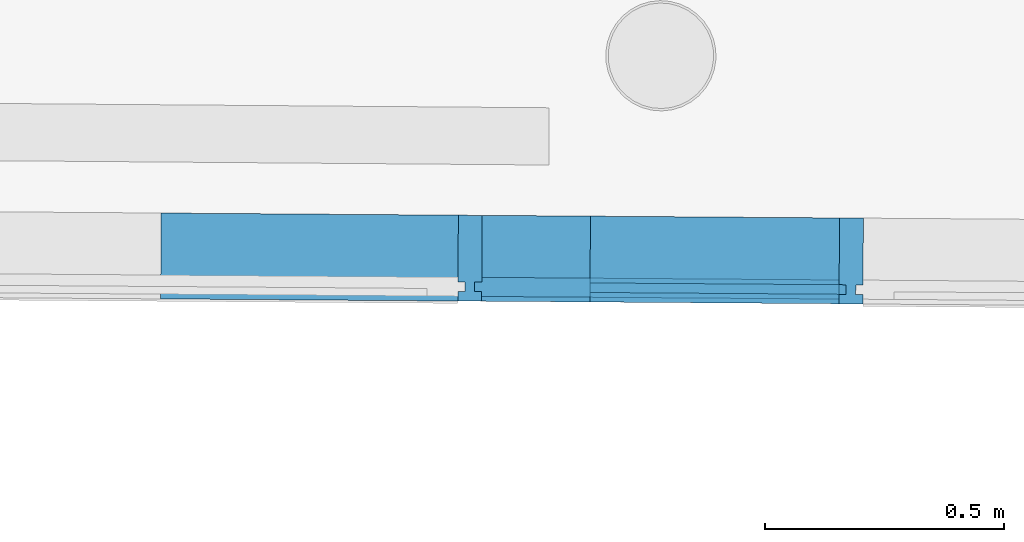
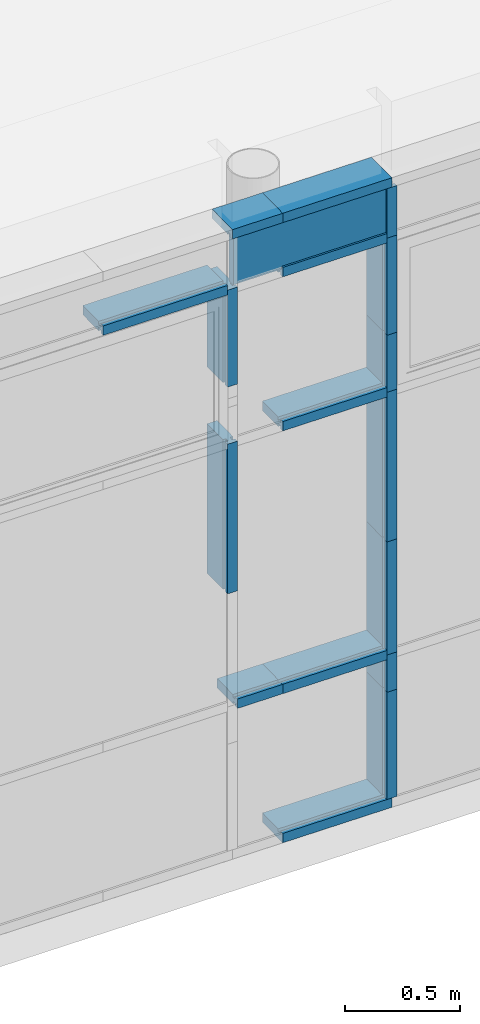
# One storey, part 172 of 196: 18 building element parts, 1 element without a shape of its own.
"""IFC2X3 building model written with IfcOpenShell, lengths in metres."""

from ifc_helpers import new_model, entity, si_unit, converted_unit, derived_unit, money_unit, direction, frame, origin_with_axes, place, context, subcontext, project, spatial, faceted_brep, material, type_object, element, aggregate, save


model = new_model("IFC2X3")

# Units and contexts
model_context = context("Model", 3, precision=1e-05, world=origin_with_axes(), true_north=direction((0.0, 1.0)))
body_context = subcontext(model_context, "Body", "Model", "MODEL_VIEW")
ifc_project = project(units=[si_unit("LENGTHUNIT", "METRE"), si_unit("AREAUNIT", "SQUARE_METRE"), si_unit("VOLUMEUNIT", "CUBIC_METRE"), converted_unit("PLANEANGLEUNIT", "DEGREE", entity("IfcPlaneAngleMeasure", 0.0174532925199), si_unit("PLANEANGLEUNIT", "RADIAN"), dimensions=[0, 0, 0, 0, 0, 0, 0]), money_unit("EUR"), converted_unit("TIMEUNIT", "Year", entity("IfcTimeMeasure", 31556926.0), si_unit("TIMEUNIT", "SECOND"), dimensions=[0, 0, 1, 0, 0, 0, 0]), si_unit("MASSUNIT", "GRAM", prefix="KILO"), si_unit("THERMODYNAMICTEMPERATUREUNIT", "DEGREE_CELSIUS"), si_unit("LUMINOUSINTENSITYUNIT", "LUMEN"), si_unit("ENERGYUNIT", "JOULE", prefix="MEGA"), derived_unit("THERMALCONDUCTANCEUNIT", [(si_unit("POWERUNIT", "WATT"), 1), (si_unit("LENGTHUNIT", "METRE"), -1), (si_unit("THERMODYNAMICTEMPERATUREUNIT", "KELVIN"), -1)]), derived_unit("SPECIFICHEATCAPACITYUNIT", [(si_unit("ENERGYUNIT", "JOULE"), 1), (si_unit("MASSUNIT", "GRAM", prefix="KILO"), -1), (si_unit("THERMODYNAMICTEMPERATUREUNIT", "KELVIN"), -1)]), derived_unit("MASSDENSITYUNIT", [(si_unit("MASSUNIT", "GRAM", prefix="KILO"), 1), (si_unit("VOLUMEUNIT", "CUBIC_METRE"), -1)])], contexts=[model_context])

# Site, building, storey
site_placement = place(None, origin_with_axes())
site = spatial("IfcSite", under=ifc_project, at=site_placement, Name="Gelände", CompositionType="ELEMENT")
building_placement = place(site_placement, origin_with_axes())
building = spatial("IfcBuilding", under=site, at=building_placement, Name="Gebäude", CompositionType="ELEMENT")
storey_placement = place(building_placement, frame((0.0, 0.0, -3.0), z_axis=(0.0, 0.0, 1.0), x_axis=(1.0, 0.0, 0.0)))
storey = spatial("IfcBuildingStorey", under=building, at=storey_placement, Name="KELLERGESCHOSS", CompositionType="ELEMENT", Elevation=-3.0)

# Proxy, building element parts
building_element_proxy_type = type_object("IfcBuildingElementProxyType", Name="Fassadentyp", PredefinedType="NOTDEFINED")
proxy_placement = place(storey_placement, frame((2.54090824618, 35.7894672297, 0.610000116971), z_axis=(0.0, 0.0, 1.0), x_axis=(1.0, 0.0, 0.0)))
proxy = element("IfcBuildingElementProxy", 1, at=proxy_placement, inside=storey, type_object=building_element_proxy_type, Name="Fassade-002")
ifc_material_1 = material(Name="45_Glas, Normalglas")
building_element_part_1_placement = place(proxy_placement, origin_with_axes())
building_element_part_1 = element("IfcBuildingElementPart", 2, at=building_element_part_1_placement, material=ifc_material_1, Name="45_Glas, Normalglas", context=body_context, shape_type="Brep", body=[
    faceted_brep([(0.426614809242, 0.0169092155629, 3.31499994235), (-0.110571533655, 0.020801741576, 3.31499994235), (-0.110861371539, -0.0191972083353, 3.31499994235), (0.426324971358, -0.0230897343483, 3.31499994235), (0.426614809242, 0.0169092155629, 3.04649575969), (-0.110571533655, 0.020801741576, 3.04649575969), (-0.352513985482, 0.0225548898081, 3.04649575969), (-0.352513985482, 0.0225548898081, 3.31499994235), (-0.352803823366, -0.0174440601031, 3.31499994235), (-0.352803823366, -0.0174440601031, 3.04649575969), (-0.110861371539, -0.0191972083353, 3.04649575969), (0.426324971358, -0.0230897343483, 3.04649575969)], [[[0, 1, 2, 3]], [[0, 4, 5, 6, 7, 1]], [[1, 7, 8, 2]], [[3, 2, 8, 9, 10, 11]], [[4, 0, 3, 11]], [[5, 4, 11, 10]], [[6, 5, 10, 9]], [[7, 6, 9, 8]]]),
])
ifc_material_2 = material(Name="53_Metall, Aluminium")
building_element_part_2_placement = place(proxy_placement, origin_with_axes())
building_element_part_2 = element("IfcBuildingElementPart", 3, at=building_element_part_2_placement, material=ifc_material_2, Name="53_Metall, Aluminium", context=body_context, shape_type="Brep", body=[
    faceted_brep([(0.446541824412, 0.00676455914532, 3.29999994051), (0.461541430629, 0.00665586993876, 3.29999994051), (0.462555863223, 0.146652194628, 3.29999994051), (0.412557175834, 0.147014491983, 3.29999994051), (0.41154274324, 0.00701816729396, 3.29999994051), (0.426542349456, 0.0069094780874, 3.29999994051), (0.426397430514, -0.0130899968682, 3.29999994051), (0.411397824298, -0.0129813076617, 3.29999994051), (0.411252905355, -0.0329807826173, 3.29999994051), (0.461251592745, -0.0333430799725, 3.29999994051), (0.461396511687, -0.0133436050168, 3.29999994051), (0.44639690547, -0.0132349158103, 3.29999994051), (0.446541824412, 0.00676455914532, 3.03649576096), (0.461541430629, 0.00665586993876, 3.03649576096), (0.462555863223, 0.146652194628, 3.03649576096), (0.412557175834, 0.147014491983, 3.03649576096), (0.41154274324, 0.00701816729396, 3.03649576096), (0.426542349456, 0.0069094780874, 3.03649576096), (0.426397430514, -0.0130899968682, 3.03649576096), (0.411397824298, -0.0129813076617, 3.03649576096), (0.411252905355, -0.0329807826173, 3.03649576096), (0.461251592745, -0.0333430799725, 3.03649576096), (0.461396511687, -0.0133436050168, 3.03649576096), (0.44639690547, -0.0132349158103, 3.03649576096)], [[[0, 1, 2, 3, 4, 5, 6, 7, 8, 9, 10, 11]], [[1, 0, 12, 13]], [[1, 13, 14, 2]], [[3, 2, 14, 15]], [[4, 3, 15, 16]], [[4, 16, 17, 5]], [[5, 17, 18, 6]], [[7, 6, 18, 19]], [[19, 20, 8, 7]], [[9, 8, 20, 21]], [[22, 10, 9, 21]], [[11, 10, 22, 23]], [[0, 11, 23, 12]], [[23, 22, 21, 20, 19, 18, 17, 16, 15, 14, 13, 12]]]),
])
building_element_part_3_placement = place(proxy_placement, origin_with_axes())
building_element_part_3 = element("IfcBuildingElementPart", 4, at=building_element_part_3_placement, material=ifc_material_2, Name="53_Metall, Aluminium", context=body_context, shape_type="Brep", body=[
    faceted_brep([(0.446541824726, 0.00676455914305, 2.51999988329), (0.461541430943, 0.00665586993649, 2.51999988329), (0.462555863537, 0.146652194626, 2.51999988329), (0.412557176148, 0.147014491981, 2.51999988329), (0.411542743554, 0.00701816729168, 2.51999988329), (0.426542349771, 0.00690947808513, 2.51999988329), (0.426397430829, -0.0130899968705, 2.51999988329), (0.411397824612, -0.0129813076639, 2.51999988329), (0.41125290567, -0.0329807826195, 2.51999988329), (0.461251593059, -0.0333430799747, 2.51999988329), (0.461396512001, -0.0133436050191, 2.51999988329), (0.446396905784, -0.0132349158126, 2.51999988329), (0.446541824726, 0.00676455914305, 2.21648768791), (0.461541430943, 0.00665586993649, 2.21648768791), (0.462555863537, 0.146652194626, 2.21648768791), (0.412557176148, 0.147014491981, 2.21648768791), (0.411542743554, 0.00701816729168, 2.21648768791), (0.426542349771, 0.00690947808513, 2.21648768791), (0.426397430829, -0.0130899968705, 2.21648768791), (0.411397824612, -0.0129813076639, 2.21648768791), (0.41125290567, -0.0329807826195, 2.21648768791), (0.461251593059, -0.0333430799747, 2.21648768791), (0.461396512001, -0.0133436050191, 2.21648768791), (0.446396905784, -0.0132349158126, 2.21648768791)], [[[0, 1, 2, 3, 4, 5, 6, 7, 8, 9, 10, 11]], [[1, 0, 12, 13]], [[1, 13, 14, 2]], [[3, 2, 14, 15]], [[4, 3, 15, 16]], [[4, 16, 17, 5]], [[5, 17, 18, 6]], [[7, 6, 18, 19]], [[19, 20, 8, 7]], [[9, 8, 20, 21]], [[22, 10, 9, 21]], [[11, 10, 22, 23]], [[0, 11, 23, 12]], [[23, 22, 21, 20, 19, 18, 17, 16, 15, 14, 13, 12]]]),
])
building_element_part_4_placement = place(proxy_placement, origin_with_axes())
building_element_part_4 = element("IfcBuildingElementPart", 5, at=building_element_part_4_placement, material=ifc_material_2, Name="53_Metall, Aluminium", context=body_context, shape_type="Brep", body=[
    faceted_brep([(0.446541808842, 0.00676455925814, 2.21648768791), (0.461541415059, 0.00665587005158, 2.21648768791), (0.462555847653, 0.146652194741, 2.21648768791), (0.412557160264, 0.147014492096, 2.21648768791), (0.41154272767, 0.00701816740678, 2.21648768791), (0.426542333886, 0.00690947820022, 2.21648768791), (0.426397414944, -0.0130899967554, 2.21648768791), (0.411397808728, -0.0129813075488, 2.21648768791), (0.411252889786, -0.0329807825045, 2.21648768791), (0.461251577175, -0.0333430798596, 2.21648768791), (0.461396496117, -0.013343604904, 2.21648768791), (0.4463968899, -0.0132349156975, 2.21648768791), (0.446541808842, 0.00676455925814, 1.41999988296), (0.461541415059, 0.00665587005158, 1.41999988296), (0.462555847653, 0.146652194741, 1.41999988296), (0.412557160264, 0.147014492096, 1.41999988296), (0.41154272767, 0.00701816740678, 1.41999988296), (0.426542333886, 0.00690947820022, 1.41999988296), (0.426397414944, -0.0130899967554, 1.41999988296), (0.411397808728, -0.0129813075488, 1.41999988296), (0.411252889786, -0.0329807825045, 1.41999988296), (0.461251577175, -0.0333430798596, 1.41999988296), (0.461396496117, -0.013343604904, 1.41999988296), (0.4463968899, -0.0132349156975, 1.41999988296)], [[[0, 1, 2, 3, 4, 5, 6, 7, 8, 9, 10, 11]], [[1, 0, 12, 13]], [[1, 13, 14, 2]], [[3, 2, 14, 15]], [[4, 3, 15, 16]], [[4, 16, 17, 5]], [[5, 17, 18, 6]], [[7, 6, 18, 19]], [[19, 20, 8, 7]], [[9, 8, 20, 21]], [[22, 10, 9, 21]], [[11, 10, 22, 23]], [[0, 11, 23, 12]], [[23, 22, 21, 20, 19, 18, 17, 16, 15, 14, 13, 12]]]),
])
building_element_part_5_placement = place(proxy_placement, origin_with_axes())
building_element_part_5 = element("IfcBuildingElementPart", 6, at=building_element_part_5_placement, material=ifc_material_2, Name="53_Metall, Aluminium", context=body_context, shape_type="Brep", body=[
    faceted_brep([(0.436542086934, 0.00683701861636, 3.31499994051), (0.436542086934, 0.00683701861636, 3.29999994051), (0.437556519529, 0.146833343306, 3.29999994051), (0.437556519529, 0.146833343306, 3.34999994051), (0.43625224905, -0.0331619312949, 3.34999994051), (0.43625224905, -0.0331619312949, 3.29999994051), (0.436397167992, -0.0131624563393, 3.29999994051), (0.436397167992, -0.0131624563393, 3.31499994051), (-0.11064399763, 0.0108020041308, 3.31499994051), (-0.11064399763, 0.0108020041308, 3.29999994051), (-0.109629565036, 0.15079832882, 3.29999994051), (-0.109629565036, 0.15079832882, 3.34999994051), (-0.110933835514, -0.0291969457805, 3.34999994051), (-0.110933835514, -0.0291969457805, 3.29999994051), (-0.110788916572, -0.00919747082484, 3.29999994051), (-0.110788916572, -0.00919747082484, 3.31499994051)], [[[0, 1, 2, 3, 4, 5, 6, 7]], [[0, 8, 9, 1]], [[9, 10, 2, 1]], [[10, 11, 3, 2]], [[11, 12, 4, 3]], [[12, 13, 5, 4]], [[6, 5, 13, 14]], [[14, 15, 7, 6]], [[7, 15, 8, 0]], [[8, 15, 14, 13, 12, 11, 10, 9]]]),
])
building_element_part_6_placement = place(proxy_placement, origin_with_axes())
building_element_part_6 = element("IfcBuildingElementPart", 7, at=building_element_part_6_placement, material=ifc_material_2, Name="53_Metall, Aluminium", context=body_context, shape_type="Brep", body=[
    faceted_brep([(0.411542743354, 0.00701816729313, 2.20648768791), (0.411542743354, 0.00701816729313, 2.19148768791), (0.412557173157, 0.147014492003, 2.19148768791), (0.412557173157, 0.147014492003, 2.24148768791), (0.411542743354, 0.00701816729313, 2.24148768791), (0.411542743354, 0.00701816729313, 2.22648768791), (0.411397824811, -0.0129813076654, 2.22648768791), (0.411397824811, -0.0129813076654, 2.24148768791), (0.411252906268, -0.0329807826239, 2.24148768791), (0.411252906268, -0.0329807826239, 2.19148768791), (0.411397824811, -0.0129813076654, 2.19148768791), (0.411397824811, -0.0129813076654, 2.20648768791), (-0.11064399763, 0.0108020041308, 2.20648768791), (-0.11064399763, 0.0108020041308, 2.19148768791), (-0.109629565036, 0.15079832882, 2.19148768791), (-0.109629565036, 0.15079832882, 2.24148768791), (-0.11064399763, 0.0108020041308, 2.24148768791), (-0.11064399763, 0.0108020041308, 2.22648768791), (-0.110788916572, -0.00919747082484, 2.22648768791), (-0.110788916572, -0.00919747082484, 2.24148768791), (-0.110933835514, -0.0291969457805, 2.24148768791), (-0.110933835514, -0.0291969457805, 2.19148768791), (-0.110788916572, -0.00919747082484, 2.19148768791), (-0.110788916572, -0.00919747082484, 2.20648768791)], [[[0, 1, 2, 3, 4, 5, 6, 7, 8, 9, 10, 11]], [[1, 0, 12, 13]], [[1, 13, 14, 2]], [[3, 2, 14, 15]], [[4, 3, 15, 16]], [[4, 16, 17, 5]], [[5, 17, 18, 6]], [[7, 6, 18, 19]], [[19, 20, 8, 7]], [[9, 8, 20, 21]], [[22, 10, 9, 21]], [[11, 10, 22, 23]], [[0, 11, 23, 12]], [[23, 22, 21, 20, 19, 18, 17, 16, 15, 14, 13, 12]]]),
])
building_element_part_7_placement = place(proxy_placement, origin_with_axes())
building_element_part_7 = element("IfcBuildingElementPart", 8, at=building_element_part_7_placement, material=ifc_material_2, Name="53_Metall, Aluminium", context=body_context, shape_type="Brep", body=[
    faceted_brep([(0.411542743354, 0.00701816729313, 0.808463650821), (0.411542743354, 0.00701816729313, 0.793463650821), (0.412557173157, 0.147014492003, 0.793463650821), (0.412557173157, 0.147014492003, 0.843463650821), (0.411542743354, 0.00701816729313, 0.843463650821), (0.411542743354, 0.00701816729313, 0.828463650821), (0.411397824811, -0.0129813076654, 0.828463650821), (0.411397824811, -0.0129813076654, 0.843463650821), (0.411252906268, -0.0329807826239, 0.843463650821), (0.411252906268, -0.0329807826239, 0.793463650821), (0.411397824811, -0.0129813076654, 0.793463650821), (0.411397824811, -0.0129813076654, 0.808463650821), (-0.11064399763, 0.0108020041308, 0.808463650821), (-0.11064399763, 0.0108020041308, 0.793463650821), (-0.109629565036, 0.15079832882, 0.793463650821), (-0.109629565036, 0.15079832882, 0.843463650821), (-0.11064399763, 0.0108020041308, 0.843463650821), (-0.11064399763, 0.0108020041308, 0.828463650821), (-0.110788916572, -0.00919747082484, 0.828463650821), (-0.110788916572, -0.00919747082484, 0.843463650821), (-0.110933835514, -0.0291969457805, 0.843463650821), (-0.110933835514, -0.0291969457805, 0.793463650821), (-0.110788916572, -0.00919747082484, 0.793463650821), (-0.110788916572, -0.00919747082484, 0.808463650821)], [[[0, 1, 2, 3, 4, 5, 6, 7, 8, 9, 10, 11]], [[1, 0, 12, 13]], [[1, 13, 14, 2]], [[3, 2, 14, 15]], [[4, 3, 15, 16]], [[4, 16, 17, 5]], [[5, 17, 18, 6]], [[7, 6, 18, 19]], [[19, 20, 8, 7]], [[9, 8, 20, 21]], [[22, 10, 9, 21]], [[11, 10, 22, 23]], [[0, 11, 23, 12]], [[23, 22, 21, 20, 19, 18, 17, 16, 15, 14, 13, 12]]]),
])
building_element_part_8_placement = place(proxy_placement, origin_with_axes())
building_element_part_8 = element("IfcBuildingElementPart", 9, at=building_element_part_8_placement, material=ifc_material_2, Name="53_Metall, Aluminium", context=body_context, shape_type="Brep", body=[
    faceted_brep([(0.436542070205, 0.00683701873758, 0.03499984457), (0.436397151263, -0.013162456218, 0.03499984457), (0.436397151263, -0.013162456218, 0.04999984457), (0.436252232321, -0.0331619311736, 0.04999984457), (0.436252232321, -0.0331619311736, -1.55430020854e-07), (0.4375565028, 0.146833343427, -1.55430020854e-07), (0.4375565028, 0.146833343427, 0.04999984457), (0.436542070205, 0.00683701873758, 0.04999984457), (-0.11064399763, 0.0108020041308, 0.03499984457), (-0.110788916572, -0.00919747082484, 0.03499984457), (-0.110788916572, -0.00919747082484, 0.04999984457), (-0.110933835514, -0.0291969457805, 0.04999984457), (-0.110933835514, -0.0291969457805, -1.55430020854e-07), (-0.109629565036, 0.15079832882, -1.55430020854e-07), (-0.109629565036, 0.15079832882, 0.04999984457), (-0.11064399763, 0.0108020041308, 0.04999984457)], [[[0, 1, 2, 3, 4, 5, 6, 7]], [[1, 0, 8, 9]], [[10, 2, 1, 9]], [[2, 10, 11, 3]], [[12, 4, 3, 11]], [[13, 5, 4, 12]], [[14, 6, 5, 13]], [[15, 7, 6, 14]], [[0, 7, 15, 8]], [[8, 15, 14, 13, 12, 11, 10, 9]]]),
])
building_element_part_9_placement = place(proxy_placement, origin_with_axes())
building_element_part_9 = element("IfcBuildingElementPart", 10, at=building_element_part_9_placement, material=ifc_material_2, Name="53_Metall, Aluminium", context=body_context, shape_type="Brep", body=[
    faceted_brep([(0.446541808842, 0.00676455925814, 1.4199998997), (0.461541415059, 0.00665587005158, 1.4199998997), (0.462555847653, 0.146652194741, 1.4199998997), (0.412557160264, 0.147014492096, 1.4199998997), (0.41154272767, 0.00701816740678, 1.4199998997), (0.426542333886, 0.00690947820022, 1.4199998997), (0.426397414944, -0.0130899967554, 1.4199998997), (0.411397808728, -0.0129813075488, 1.4199998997), (0.411252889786, -0.0329807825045, 1.4199998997), (0.461251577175, -0.0333430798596, 1.4199998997), (0.461396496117, -0.013343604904, 1.4199998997), (0.4463968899, -0.0132349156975, 1.4199998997), (0.446541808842, 0.00676455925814, 0.818463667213), (0.461541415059, 0.00665587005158, 0.818463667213), (0.462555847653, 0.146652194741, 0.818463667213), (0.412557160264, 0.147014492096, 0.818463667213), (0.41154272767, 0.00701816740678, 0.818463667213), (0.426542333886, 0.00690947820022, 0.818463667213), (0.426397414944, -0.0130899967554, 0.818463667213), (0.411397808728, -0.0129813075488, 0.818463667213), (0.411252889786, -0.0329807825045, 0.818463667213), (0.461251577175, -0.0333430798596, 0.818463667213), (0.461396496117, -0.013343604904, 0.818463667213), (0.4463968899, -0.0132349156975, 0.818463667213)], [[[0, 1, 2, 3, 4, 5, 6, 7, 8, 9, 10, 11]], [[1, 0, 12, 13]], [[1, 13, 14, 2]], [[3, 2, 14, 15]], [[4, 3, 15, 16]], [[4, 16, 17, 5]], [[5, 17, 18, 6]], [[7, 6, 18, 19]], [[19, 20, 8, 7]], [[9, 8, 20, 21]], [[22, 10, 9, 21]], [[11, 10, 22, 23]], [[0, 11, 23, 12]], [[23, 22, 21, 20, 19, 18, 17, 16, 15, 14, 13, 12]]]),
])
building_element_part_10_placement = place(proxy_placement, origin_with_axes())
building_element_part_10 = element("IfcBuildingElementPart", 11, at=building_element_part_10_placement, material=ifc_material_2, Name="53_Metall, Aluminium", context=body_context, shape_type="Brep", body=[
    faceted_brep([(0.446541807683, 0.00676455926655, 0.619999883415), (0.4615414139, 0.00665587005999, 0.619999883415), (0.462555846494, 0.146652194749, 0.619999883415), (0.412557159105, 0.147014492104, 0.619999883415), (0.411542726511, 0.00701816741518, 0.619999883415), (0.426542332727, 0.00690947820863, 0.619999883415), (0.426397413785, -0.013089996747, 0.619999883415), (0.411397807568, -0.0129813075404, 0.619999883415), (0.411252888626, -0.032980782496, 0.619999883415), (0.461251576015, -0.0333430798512, 0.619999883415), (0.461396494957, -0.0133436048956, 0.619999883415), (0.446396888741, -0.0132349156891, 0.619999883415), (0.446541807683, 0.00676455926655, 0.04999984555), (0.4615414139, 0.00665587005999, 0.04999984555), (0.462555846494, 0.146652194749, 0.049999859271), (0.412557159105, 0.147014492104, 0.049999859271), (0.411542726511, 0.00701816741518, 0.04999984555), (0.426542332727, 0.00690947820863, 0.04999984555), (0.426397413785, -0.013089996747, 0.0499998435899), (0.411397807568, -0.0129813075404, 0.0499998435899), (0.411252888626, -0.032980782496, 0.0499998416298), (0.461251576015, -0.0333430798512, 0.0499998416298), (0.461396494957, -0.0133436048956, 0.0499998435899), (0.446396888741, -0.0132349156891, 0.0499998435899)], [[[0, 1, 2, 3, 4, 5, 6, 7, 8, 9, 10, 11]], [[1, 0, 12, 13]], [[1, 13, 14, 2]], [[2, 14, 15, 3]], [[4, 3, 15, 16]], [[4, 16, 17, 5]], [[5, 17, 18, 6]], [[7, 6, 18, 19]], [[19, 20, 8, 7]], [[8, 20, 21, 9]], [[22, 10, 9, 21]], [[11, 10, 22, 23]], [[0, 11, 23, 12]], [[23, 22, 21, 20, 19, 18, 17, 16, 15, 14, 13, 12]]]),
])
building_element_part_11_placement = place(proxy_placement, origin_with_axes())
building_element_part_11 = element("IfcBuildingElementPart", 12, at=building_element_part_11_placement, material=ifc_material_2, Name="53_Metall, Aluminium", context=body_context, shape_type="Brep", body=[
    faceted_brep([(0.446541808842, 0.00676455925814, 0.818463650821), (0.461541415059, 0.00665587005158, 0.818463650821), (0.462555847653, 0.146652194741, 0.818463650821), (0.412557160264, 0.147014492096, 0.818463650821), (0.41154272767, 0.00701816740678, 0.818463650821), (0.426542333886, 0.00690947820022, 0.818463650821), (0.426397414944, -0.0130899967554, 0.818463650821), (0.411397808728, -0.0129813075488, 0.818463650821), (0.411252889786, -0.0329807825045, 0.818463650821), (0.461251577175, -0.0333430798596, 0.818463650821), (0.461396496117, -0.013343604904, 0.818463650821), (0.4463968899, -0.0132349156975, 0.818463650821), (0.446541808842, 0.00676455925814, 0.619999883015), (0.461541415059, 0.00665587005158, 0.619999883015), (0.462555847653, 0.146652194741, 0.619999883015), (0.412557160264, 0.147014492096, 0.619999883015), (0.41154272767, 0.00701816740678, 0.619999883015), (0.426542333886, 0.00690947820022, 0.619999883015), (0.426397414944, -0.0130899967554, 0.619999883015), (0.411397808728, -0.0129813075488, 0.619999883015), (0.411252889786, -0.0329807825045, 0.619999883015), (0.461251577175, -0.0333430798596, 0.619999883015), (0.461396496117, -0.013343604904, 0.619999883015), (0.4463968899, -0.0132349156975, 0.619999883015)], [[[0, 1, 2, 3, 4, 5, 6, 7, 8, 9, 10, 11]], [[1, 0, 12, 13]], [[1, 13, 14, 2]], [[3, 2, 14, 15]], [[4, 3, 15, 16]], [[4, 16, 17, 5]], [[5, 17, 18, 6]], [[7, 6, 18, 19]], [[19, 20, 8, 7]], [[9, 8, 20, 21]], [[22, 10, 9, 21]], [[11, 10, 22, 23]], [[0, 11, 23, 12]], [[23, 22, 21, 20, 19, 18, 17, 16, 15, 14, 13, 12]]]),
])
building_element_part_12_placement = place(proxy_placement, origin_with_axes())
building_element_part_12 = element("IfcBuildingElementPart", 13, at=building_element_part_12_placement, material=ifc_material_2, Name="53_Metall, Aluminium", context=body_context, shape_type="Brep", body=[
    faceted_brep([(-0.110643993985, 0.0108020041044, 0.808463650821), (-0.110643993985, 0.0108020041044, 0.793463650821), (-0.10962956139, 0.150798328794, 0.793463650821), (-0.10962956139, 0.150798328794, 0.843463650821), (-0.110643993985, 0.0108020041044, 0.843463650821), (-0.110643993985, 0.0108020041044, 0.828463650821), (-0.110788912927, -0.00919747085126, 0.828463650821), (-0.110788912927, -0.00919747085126, 0.843463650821), (-0.110933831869, -0.0291969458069, 0.843463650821), (-0.110933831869, -0.0291969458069, 0.793463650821), (-0.110788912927, -0.00919747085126, 0.793463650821), (-0.110788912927, -0.00919747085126, 0.808463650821), (-0.337586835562, 0.0124464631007, 0.808463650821), (-0.337586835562, 0.0124464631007, 0.793463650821), (-0.336572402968, 0.15244278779, 0.793463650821), (-0.336572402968, 0.15244278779, 0.843463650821), (-0.337586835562, 0.0124464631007, 0.843463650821), (-0.337586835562, 0.0124464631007, 0.828463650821), (-0.337731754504, -0.00755301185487, 0.828463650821), (-0.337731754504, -0.00755301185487, 0.843463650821), (-0.337876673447, -0.0275524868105, 0.843463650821), (-0.337876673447, -0.0275524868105, 0.793463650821), (-0.337731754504, -0.00755301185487, 0.793463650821), (-0.337731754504, -0.00755301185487, 0.808463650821)], [[[0, 1, 2, 3, 4, 5, 6, 7, 8, 9, 10, 11]], [[1, 0, 12, 13]], [[1, 13, 14, 2]], [[2, 14, 15, 3]], [[4, 3, 15, 16]], [[4, 16, 17, 5]], [[5, 17, 18, 6]], [[7, 6, 18, 19]], [[19, 20, 8, 7]], [[8, 20, 21, 9]], [[22, 10, 9, 21]], [[11, 10, 22, 23]], [[0, 11, 23, 12]], [[23, 22, 21, 20, 19, 18, 17, 16, 15, 14, 13, 12]]]),
])
building_element_part_13_placement = place(proxy_placement, origin_with_axes())
building_element_part_13 = element("IfcBuildingElementPart", 14, at=building_element_part_13_placement, material=ifc_material_2, Name="53_Metall, Aluminium", context=body_context, shape_type="Brep", body=[
    faceted_brep([(-0.352586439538, 0.0125551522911, 2.21648768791), (-0.337586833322, 0.0124464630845, 2.21648768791), (-0.336572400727, 0.152442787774, 2.21648768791), (-0.386571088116, 0.152805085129, 2.21648768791), (-0.387585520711, 0.0128087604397, 2.21648768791), (-0.372585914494, 0.0127000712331, 2.21648768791), (-0.372730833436, -0.00729940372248, 2.21648768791), (-0.387730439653, -0.00719071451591, 2.21648768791), (-0.387875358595, -0.0271901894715, 2.21648768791), (-0.337876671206, -0.0275524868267, 2.21648768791), (-0.337731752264, -0.00755301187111, 2.21648768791), (-0.35273135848, -0.00744432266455, 2.21648768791), (-0.352586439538, 0.0125551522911, 1.41999988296), (-0.337586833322, 0.0124464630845, 1.41999988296), (-0.336572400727, 0.152442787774, 1.41999988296), (-0.386571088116, 0.152805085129, 1.41999988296), (-0.387585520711, 0.0128087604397, 1.41999988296), (-0.372585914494, 0.0127000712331, 1.41999988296), (-0.372730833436, -0.00729940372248, 1.41999988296), (-0.387730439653, -0.00719071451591, 1.41999988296), (-0.387875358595, -0.0271901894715, 1.41999988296), (-0.337876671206, -0.0275524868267, 1.41999988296), (-0.337731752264, -0.00755301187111, 1.41999988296), (-0.35273135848, -0.00744432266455, 1.41999988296)], [[[0, 1, 2, 3, 4, 5, 6, 7, 8, 9, 10, 11]], [[1, 0, 12, 13]], [[1, 13, 14, 2]], [[3, 2, 14, 15]], [[4, 3, 15, 16]], [[4, 16, 17, 5]], [[5, 17, 18, 6]], [[7, 6, 18, 19]], [[19, 20, 8, 7]], [[9, 8, 20, 21]], [[22, 10, 9, 21]], [[11, 10, 22, 23]], [[0, 11, 23, 12]], [[23, 22, 21, 20, 19, 18, 17, 16, 15, 14, 13, 12]]]),
])
building_element_part_14_placement = place(proxy_placement, origin_with_axes())
building_element_part_14 = element("IfcBuildingElementPart", 15, at=building_element_part_14_placement, material=ifc_material_2, Name="53_Metall, Aluminium", context=body_context, shape_type="Brep", body=[
    faceted_brep([(-0.387585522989, 0.0128087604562, 3.02649576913), (-0.387585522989, 0.0128087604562, 3.01149576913), (-0.386571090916, 0.152805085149, 3.01149576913), (-0.386571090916, 0.152805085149, 3.06149576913), (-0.387585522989, 0.0128087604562, 3.06149576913), (-0.387585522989, 0.0128087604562, 3.04649576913), (-0.387730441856, -0.00719071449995, 3.04649576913), (-0.387730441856, -0.00719071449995, 3.06149576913), (-0.387875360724, -0.0271901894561, 3.06149576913), (-0.387875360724, -0.0271901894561, 3.01149576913), (-0.387730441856, -0.00719071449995, 3.01149576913), (-0.387730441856, -0.00719071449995, 3.02649576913), (-1.0106203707, 0.0173233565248, 3.02649576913), (-1.0106203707, 0.0173233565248, 3.01149576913), (-1.00960593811, 0.157319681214, 3.01149576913), (-1.00960593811, 0.157319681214, 3.06149576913), (-1.0106203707, 0.0173233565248, 3.06149576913), (-1.0106203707, 0.0173233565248, 3.04649576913), (-1.01076528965, -0.00267611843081, 3.04649576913), (-1.01076528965, -0.00267611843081, 3.06149576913), (-1.01091020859, -0.0226755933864, 3.06149576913), (-1.01091020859, -0.0226755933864, 3.01149576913), (-1.01076528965, -0.00267611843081, 3.01149576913), (-1.01076528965, -0.00267611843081, 3.02649576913)], [[[0, 1, 2, 3, 4, 5, 6, 7, 8, 9, 10, 11]], [[1, 0, 12, 13]], [[1, 13, 14, 2]], [[3, 2, 14, 15]], [[4, 3, 15, 16]], [[4, 16, 17, 5]], [[5, 17, 18, 6]], [[7, 6, 18, 19]], [[19, 20, 8, 7]], [[9, 8, 20, 21]], [[22, 10, 9, 21]], [[11, 10, 22, 23]], [[0, 11, 23, 12]], [[23, 22, 21, 20, 19, 18, 17, 16, 15, 14, 13, 12]]]),
])
building_element_part_15_placement = place(proxy_placement, origin_with_axes())
building_element_part_15 = element("IfcBuildingElementPart", 16, at=building_element_part_15_placement, material=ifc_material_2, Name="53_Metall, Aluminium", context=body_context, shape_type="Brep", body=[
    faceted_brep([(0.411542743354, 0.00701816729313, 3.02649576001), (0.411542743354, 0.00701816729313, 3.01149576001), (0.412557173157, 0.147014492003, 3.01149576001), (0.412557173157, 0.147014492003, 3.06149576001), (0.411542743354, 0.00701816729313, 3.06149576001), (0.411542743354, 0.00701816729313, 3.04649576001), (0.411397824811, -0.0129813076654, 3.04649576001), (0.411397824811, -0.0129813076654, 3.06149576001), (0.411252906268, -0.0329807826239, 3.06149576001), (0.411252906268, -0.0329807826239, 3.01149576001), (0.411397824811, -0.0129813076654, 3.01149576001), (0.411397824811, -0.0129813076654, 3.02649576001), (-0.11064399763, 0.0108020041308, 3.02649576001), (-0.11064399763, 0.0108020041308, 3.01149576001), (-0.109629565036, 0.15079832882, 3.01149576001), (-0.109629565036, 0.15079832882, 3.06149576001), (-0.11064399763, 0.0108020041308, 3.06149576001), (-0.11064399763, 0.0108020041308, 3.04649576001), (-0.110788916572, -0.00919747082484, 3.04649576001), (-0.110788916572, -0.00919747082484, 3.06149576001), (-0.110933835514, -0.0291969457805, 3.06149576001), (-0.110933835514, -0.0291969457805, 3.01149576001), (-0.110788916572, -0.00919747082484, 3.01149576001), (-0.110788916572, -0.00919747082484, 3.02649576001)], [[[0, 1, 2, 3, 4, 5, 6, 7, 8, 9, 10, 11]], [[1, 0, 12, 13]], [[1, 13, 14, 2]], [[3, 2, 14, 15]], [[4, 3, 15, 16]], [[4, 16, 17, 5]], [[5, 17, 18, 6]], [[7, 6, 18, 19]], [[19, 20, 8, 7]], [[9, 8, 20, 21]], [[22, 10, 9, 21]], [[11, 10, 22, 23]], [[0, 11, 23, 12]], [[23, 22, 21, 20, 19, 18, 17, 16, 15, 14, 13, 12]]]),
])
building_element_part_16_placement = place(proxy_placement, origin_with_axes())
building_element_part_16 = element("IfcBuildingElementPart", 17, at=building_element_part_16_placement, material=ifc_material_2, Name="53_Metall, Aluminium", context=body_context, shape_type="Brep", body=[
    faceted_brep([(-0.11064399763, 0.0108020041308, 3.31499994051), (-0.11064399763, 0.0108020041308, 3.29999994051), (-0.109629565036, 0.15079832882, 3.29999994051), (-0.109629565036, 0.15079832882, 3.34999994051), (-0.110933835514, -0.0291969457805, 3.34999994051), (-0.110933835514, -0.0291969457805, 3.29999994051), (-0.110788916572, -0.00919747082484, 3.29999994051), (-0.110788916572, -0.00919747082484, 3.31499994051), (-0.362586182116, 0.0126276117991, 3.31499994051), (-0.362586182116, 0.0126276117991, 3.29999994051), (-0.361571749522, 0.152623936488, 3.29999994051), (-0.361571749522, 0.152623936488, 3.34999994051), (-0.36287602, -0.0273713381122, 3.34999994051), (-0.36287602, -0.0273713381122, 3.29999994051), (-0.362731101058, -0.00737186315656, 3.29999994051), (-0.362731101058, -0.00737186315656, 3.31499994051)], [[[0, 1, 2, 3, 4, 5, 6, 7]], [[0, 8, 9, 1]], [[9, 10, 2, 1]], [[10, 11, 3, 2]], [[11, 12, 4, 3]], [[12, 13, 5, 4]], [[6, 5, 13, 14]], [[14, 15, 7, 6]], [[7, 15, 8, 0]], [[8, 15, 14, 13, 12, 11, 10, 9]]]),
])
building_element_part_17_placement = place(proxy_placement, origin_with_axes())
building_element_part_17 = element("IfcBuildingElementPart", 18, at=building_element_part_17_placement, material=ifc_material_2, Name="53_Metall, Aluminium", context=body_context, shape_type="Brep", body=[
    faceted_brep([(0.446541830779, 0.00676455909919, 3.03649576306), (0.461541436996, 0.00665586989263, 3.03649576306), (0.46255586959, 0.146652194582, 3.03649576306), (0.412557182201, 0.147014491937, 3.03649576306), (0.411542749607, 0.00701816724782, 3.03649576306), (0.426542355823, 0.00690947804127, 3.03649576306), (0.426397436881, -0.0130899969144, 3.03649576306), (0.411397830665, -0.0129813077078, 3.03649576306), (0.411252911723, -0.0329807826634, 3.03649576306), (0.461251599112, -0.0333430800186, 3.03649576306), (0.461396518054, -0.013343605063, 3.03649576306), (0.446396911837, -0.0132349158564, 3.03649576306), (0.446541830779, 0.00676455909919, 2.51999988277), (0.461541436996, 0.00665586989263, 2.51999988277), (0.46255586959, 0.146652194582, 2.51999988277), (0.412557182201, 0.147014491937, 2.51999988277), (0.411542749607, 0.00701816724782, 2.51999988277), (0.426542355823, 0.00690947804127, 2.51999988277), (0.426397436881, -0.0130899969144, 2.51999988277), (0.411397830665, -0.0129813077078, 2.51999988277), (0.411252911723, -0.0329807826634, 2.51999988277), (0.461251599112, -0.0333430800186, 2.51999988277), (0.461396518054, -0.013343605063, 2.51999988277), (0.446396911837, -0.0132349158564, 2.51999988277)], [[[0, 1, 2, 3, 4, 5, 6, 7, 8, 9, 10, 11]], [[1, 0, 12, 13]], [[1, 13, 14, 2]], [[3, 2, 14, 15]], [[4, 3, 15, 16]], [[4, 16, 17, 5]], [[5, 17, 18, 6]], [[7, 6, 18, 19]], [[19, 20, 8, 7]], [[9, 8, 20, 21]], [[22, 10, 9, 21]], [[11, 10, 22, 23]], [[0, 11, 23, 12]], [[23, 22, 21, 20, 19, 18, 17, 16, 15, 14, 13, 12]]]),
])
building_element_part_18_placement = place(proxy_placement, origin_with_axes())
building_element_part_18 = element("IfcBuildingElementPart", 19, at=building_element_part_18_placement, material=ifc_material_2, Name="53_Metall, Aluminium", context=body_context, shape_type="Brep", body=[
    faceted_brep([(-0.352586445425, 0.0125551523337, 3.03649576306), (-0.337586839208, 0.0124464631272, 3.03649576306), (-0.336572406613, 0.152442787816, 3.03649576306), (-0.386571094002, 0.152805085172, 3.03649576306), (-0.387585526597, 0.0128087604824, 3.03649576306), (-0.37258592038, 0.0127000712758, 3.03649576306), (-0.372730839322, -0.00729940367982, 3.03649576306), (-0.387730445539, -0.00719071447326, 3.03649576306), (-0.387875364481, -0.0271901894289, 3.03649576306), (-0.337876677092, -0.0275524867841, 3.03649576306), (-0.33773175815, -0.00755301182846, 3.03649576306), (-0.352731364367, -0.0074443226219, 3.03649576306), (-0.352586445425, 0.0125551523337, 2.51999988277), (-0.337586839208, 0.0124464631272, 2.51999988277), (-0.336572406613, 0.152442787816, 2.51999988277), (-0.386571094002, 0.152805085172, 2.51999988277), (-0.387585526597, 0.0128087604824, 2.51999988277), (-0.37258592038, 0.0127000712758, 2.51999988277), (-0.372730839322, -0.00729940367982, 2.51999988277), (-0.387730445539, -0.00719071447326, 2.51999988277), (-0.387875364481, -0.0271901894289, 2.51999988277), (-0.337876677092, -0.0275524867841, 2.51999988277), (-0.33773175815, -0.00755301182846, 2.51999988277), (-0.352731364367, -0.0074443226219, 2.51999988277)], [[[0, 1, 2, 3, 4, 5, 6, 7, 8, 9, 10, 11]], [[1, 0, 12, 13]], [[1, 13, 14, 2]], [[3, 2, 14, 15]], [[4, 3, 15, 16]], [[4, 16, 17, 5]], [[5, 17, 18, 6]], [[7, 6, 18, 19]], [[19, 20, 8, 7]], [[9, 8, 20, 21]], [[22, 10, 9, 21]], [[11, 10, 22, 23]], [[0, 11, 23, 12]], [[23, 22, 21, 20, 19, 18, 17, 16, 15, 14, 13, 12]]]),
])
aggregate(proxy, [building_element_part_1, building_element_part_2, building_element_part_3, building_element_part_4, building_element_part_5, building_element_part_6, building_element_part_7, building_element_part_8, building_element_part_9, building_element_part_10, building_element_part_11, building_element_part_12, building_element_part_13, building_element_part_14, building_element_part_15, building_element_part_16, building_element_part_17, building_element_part_18])

save(model, "model.ifc")
